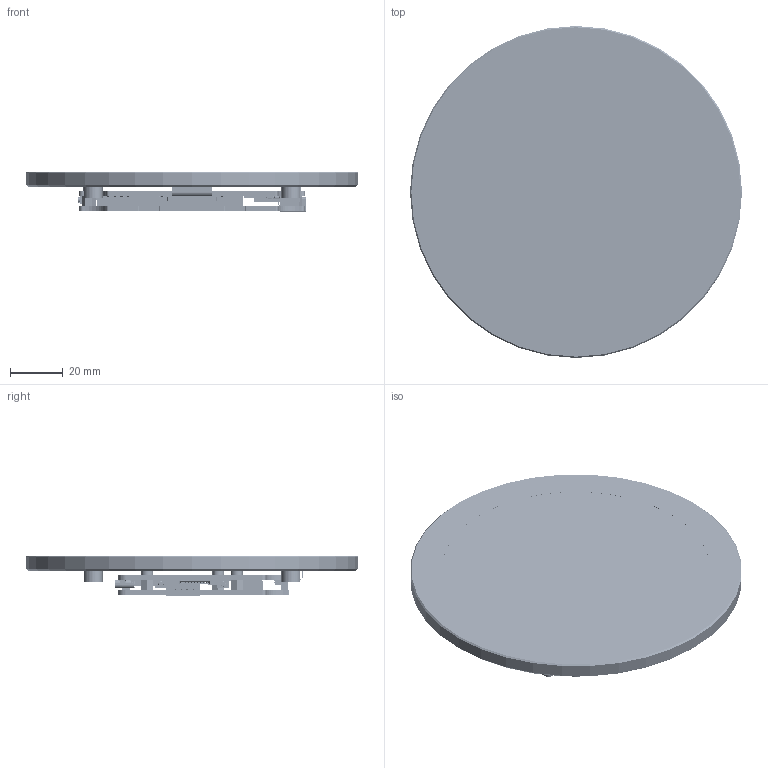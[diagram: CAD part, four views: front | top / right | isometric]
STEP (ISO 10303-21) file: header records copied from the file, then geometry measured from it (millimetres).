
FILE_DESCRIPTION((''),'2;1');
FILE_NAME('ESP32-P4-WIFI6-TOUCH-LCD-4C_ASM','2026-04-15T19:43:14',('xiaojisheng'),(''),'CREO PARAMETRIC BY PTC INC, 2021063','CREO PARAMETRIC BY PTC INC, 2021063','');
FILE_SCHEMA(('CONFIG_CONTROL_DESIGN','SHAPE_APPEARANCE_LAYERS_GROUPS'));
Products named in the file (594): 4INCH-DSI-LCD-C_CASE; BOARD-1189; HEADER-SMD-F-2_54X40; J8_ASM; USER_LIBRARY-RES_0603-0201_1; USER_LIBRARY-RES_0603-0201_2; USER_LIBRARY-RES_0603-0201_3; USER_LIBRARY-RES_0603-0201_4; USER_LIBRARY-RES_0603-0201_ASM; R62_ASM; R61_ASM; _2_1_20001; 5_1_2_A; _7_AF0; R_0402-3099_AF0_ASM_ASM; R_0402-5222_AF0_ASM_ASM; R0402_ASM; R37_ASM; R36_ASM; USER_LIBRARY-0201_0603M__CAP_1; USER_LIBRARY-0201_0603M__CAP_2; USER_LIBRARY-0201_0603M__CAP_3; USER_LIBRARY-0201_0603M__CAP_ASM; C70_ASM; EXTRUDED-145546; 1194072032_ASM; EXTRUDED-145918; 1194072288_ASM; CYLINDER-146295; 1106509168_ASM; EXTRUDED-146446; 1194072544_ASM; CYLINDER-146823; 1106508088_ASM; J1_ASM; USER_LIBRARY-SOT363-2; U11_ASM; EXTRUDED-153355; 1194072800_ASM; TVS2_ASM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
Assembly tree (952 placements, depth 12):
  ESP32-P4-WIFI6-TOUCH-LCD-4C_ASM
    4INCH-DSI-LCD-C_CASE
    ESP32-P4-WIFI6-TOUCH-LCD-XC-PCB_ASM
      ESP32-P4-WIFI6-TOUCH-LCD-XC_ASM
        PCB_ASM
          BOARD-1189
          J8_ASM
            HEADER-SMD-F-2_54X40
          R62_ASM
            USER_LIBRARY-RES_0603-0201_ASM
              USER_LIBRARY-RES_0603-0201_1
              USER_LIBRARY-RES_0603-0201_2
              USER_LIBRARY-RES_0603-0201_3
              USER_LIBRARY-RES_0603-0201_4
          R61_ASM
            USER_LIBRARY-RES_0603-0201_ASM
              USER_LIBRARY-RES_0603-0201_1
              USER_LIBRARY-RES_0603-0201_2
              USER_LIBRARY-RES_0603-0201_3
              USER_LIBRARY-RES_0603-0201_4
          R37_ASM
            R0402_ASM
              R_0402-5222_AF0_ASM_ASM
                R_0402-3099_AF0_ASM_ASM
                  _2_1_20001
                  5_1_2_A
                  _7_AF0
          R36_ASM
            R0402_ASM
              R_0402-5222_AF0_ASM_ASM
                R_0402-3099_AF0_ASM_ASM
                  _2_1_20001
                  5_1_2_A
                  _7_AF0
          C70_ASM
            USER_LIBRARY-0201_0603M__CAP_ASM
              USER_LIBRARY-0201_0603M__CAP_1
              USER_LIBRARY-0201_0603M__CAP_2
              USER_LIBRARY-0201_0603M__CAP_3
          J1_ASM
            1194072032_ASM  x2
              EXTRUDED-145546
            1194072288_ASM  x2
              EXTRUDED-145918
            1106509168_ASM  x2
              CYLINDER-146295
            1194072544_ASM
              EXTRUDED-146446
            1106508088_ASM  x2
              CYLINDER-146823
          U11_ASM
            USER_LIBRARY-SOT363-2
          TVS2_ASM
            1194072800_ASM
              EXTRUDED-153355
          R60_ASM
            USER_LIBRARY-RES_0603-0201_ASM
              USER_LIBRARY-RES_0603-0201_1
              USER_LIBRARY-RES_0603-0201_2
              USER_LIBRARY-RES_0603-0201_3
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Bounding box: 126 x 126 x 15.5 mm (x, y, z)
Volume: 81652 mm3; surface area: 106056 mm2
Topology: 1165 solids, 1195 shells, 55877 faces, 145919 edges, 94153 vertices
Faces by surface type: plane 34972, extrusion 11979, cylinder 6922, sphere 1560, cone 174, torus 158, bspline 112
Entity records: 578541 total; most frequent: CARTESIAN_POINT 122623, ORIENTED_EDGE 71434, DIRECTION 65953, EDGE_CURVE 35730, PRESENTATION_STYLE_ASSIGNMENT 31681, STYLED_ITEM 29551, VECTOR 29387, LINE 28101
